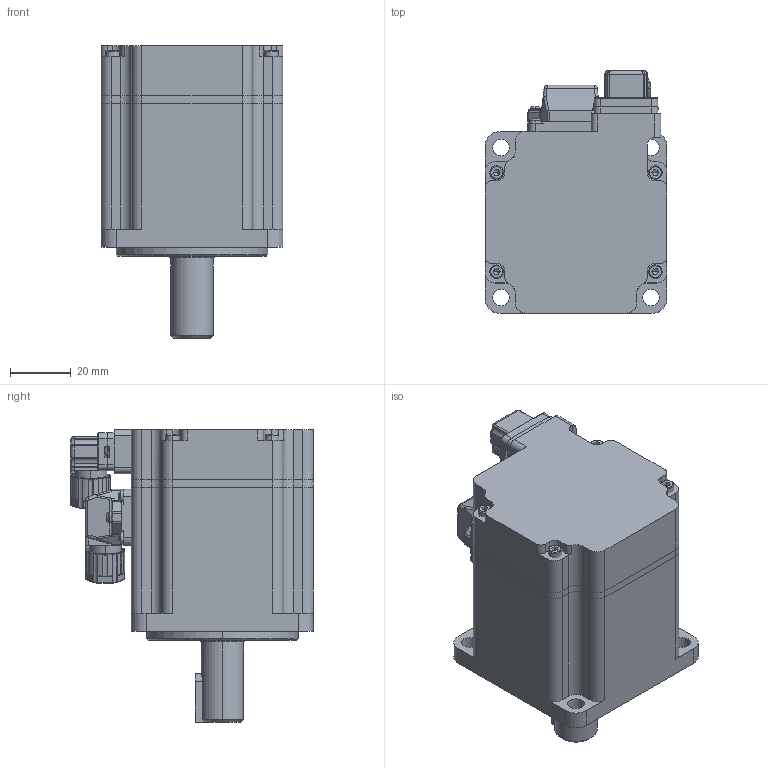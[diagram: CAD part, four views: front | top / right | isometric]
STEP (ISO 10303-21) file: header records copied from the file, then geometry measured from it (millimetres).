
FILE_DESCRIPTION (( 'STEP AP203' ), '1' );
FILE_NAME ('軞蚾.STEP', '2023-08-08T07:50:24', ( '' ), ( '' ), 'SwSTEP 2.0', 'SolidWorks 2022', '' );
FILE_SCHEMA (( 'CONFIG_CONTROL_DESIGN' ));
Products named in the file (1): 总装
Bounding box: 60 x 80 x 96.5 mm (x, y, z)
Volume: 121361.8 mm3; surface area: 86467.8 mm2
Topology: 37 solids, 38 shells, 5253 faces, 14339 edges, 9102 vertices
Faces by surface type: plane 2754, cylinder 1583, bspline 389, torus 336, cone 147, sphere 44
Entity records: 183362 total; most frequent: CARTESIAN_POINT 53229, ORIENTED_EDGE 28354, DIRECTION 25735, EDGE_CURVE 14177, VERTEX_POINT 9050, LINE 8587, VECTOR 8587, AXIS2_PLACEMENT_3D 8574
